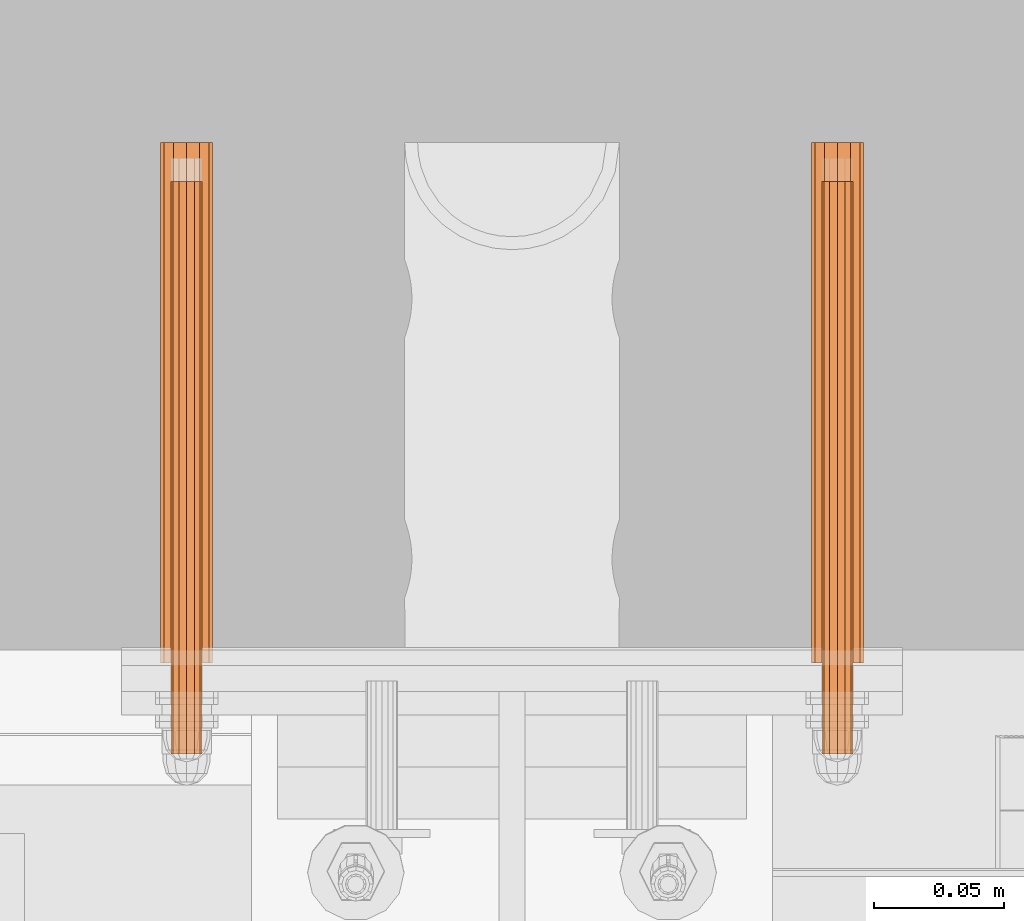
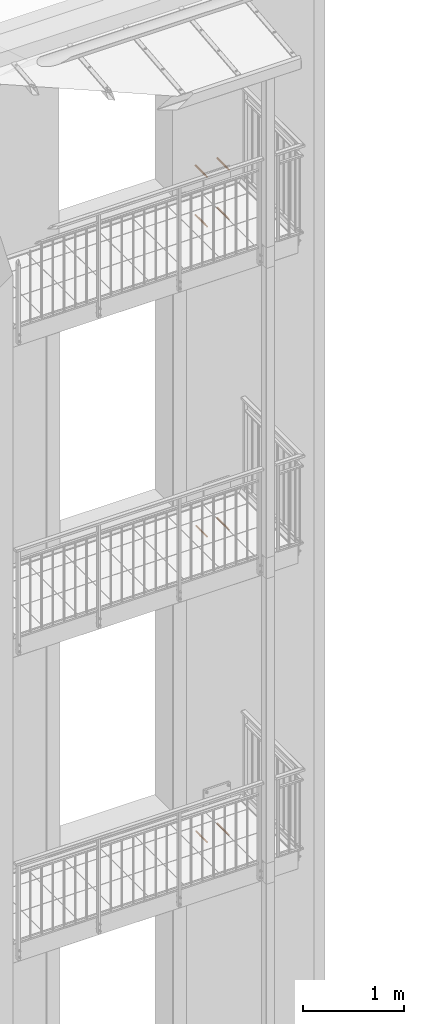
# One storey, part 99 of 162: 14 proxies.
"""IFC2X3 building model written with IfcOpenShell, lengths in millimetres."""

from ifc_helpers import new_model, entity, si_unit, converted_unit, origin_with_axes, place, context, project, spatial, faceted_brep, material, element, save


model = new_model("IFC2X3")

# Units and contexts
model_context = context("Model", 3, precision=1e-09, world=origin_with_axes())
ifc_project = project(units=[si_unit("LENGTHUNIT", "METRE", prefix="MILLI"), si_unit("AREAUNIT", "SQUARE_METRE"), si_unit("VOLUMEUNIT", "CUBIC_METRE"), converted_unit("PLANEANGLEUNIT", "DEGREE", entity("IfcPlaneAngleMeasure", 0.01745329), si_unit("PLANEANGLEUNIT", "RADIAN"), dimensions=[0, 0, 0, 0, 0, 0, 0])], contexts=[model_context])

# Site, building, storey
site_placement = place(None, origin_with_axes())
site = spatial("IfcSite", under=ifc_project, at=site_placement, Name="Hermannstra?e 1a, 60318 Frankfurt", CompositionType="ELEMENT")
building_placement = place(site_placement, origin_with_axes())
building = spatial("IfcBuilding", under=site, at=building_placement, Name="Struktur 1", CompositionType="ELEMENT")
storey_placement = place(building_placement, origin_with_axes())
storey = spatial("IfcBuildingStorey", under=building, at=storey_placement, Name="Default Storey", CompositionType="ELEMENT", Elevation=0.0)

# Proxies
ifc_material_1 = material(Name="A4")
proxy_1_placement = place(None, origin_with_axes())
element("IfcBuildingElementProxy", 1, at=proxy_1_placement, inside=storey, material=ifc_material_1, ObjectType="-", context=model_context, shape_type="Brep", body=[
    faceted_brep([(5448.30936482, 2695.609373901, 11010.999), (5448.30936482, 2915.609373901, 11010.999), (5445.30936482, 2915.609373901, 11010.195152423), (5445.30936482, 2695.609373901, 11010.195152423), (5451.30936482, 2695.609373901, 11010.195152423), (5451.30936482, 2915.609373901, 11010.195152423), (5451.30936482, 2695.609373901, 10999.802847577), (5453.505517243, 2695.609373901, 11001.999), (5454.30936482, 2695.609373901, 11004.999), (5453.505517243, 2695.609373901, 11007.999), (5443.113212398, 2695.609373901, 11007.999), (5442.30936482, 2695.609373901, 11004.999), (5443.113212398, 2695.609373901, 11001.999), (5445.30936482, 2695.609373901, 10999.802847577), (5448.30936482, 2695.609373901, 10998.999), (5445.30936482, 2915.609373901, 10999.802847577), (5443.113212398, 2915.609373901, 11001.999), (5442.30936482, 2915.609373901, 11004.999), (5443.113212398, 2915.609373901, 11007.999), (5453.505517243, 2915.609373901, 11007.999), (5454.30936482, 2915.609373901, 11004.999), (5453.505517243, 2915.609373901, 11001.999), (5451.30936482, 2915.609373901, 10999.802847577), (5448.30936482, 2915.609373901, 10998.999)], [[[0, 1, 2, 3]], [[1, 0, 4, 5]], [[6, 7, 8, 9, 4, 0, 3, 10, 11, 12, 13, 14]], [[15, 16, 17, 18, 2, 1, 5, 19, 20, 21, 22, 23]], [[3, 2, 18, 10]], [[5, 4, 9, 19]], [[17, 11, 10, 18]], [[16, 12, 11, 17]], [[19, 9, 8, 20]], [[13, 15, 23, 14]], [[12, 16, 15, 13]], [[14, 23, 22, 6]], [[20, 8, 7, 21]], [[6, 22, 21, 7]]]),
])
ifc_material_2 = material(Name="Kunststoff")
proxy_2_placement = place(None, origin_with_axes())
element("IfcBuildingElementProxy", 2, at=proxy_2_placement, inside=storey, material=ifc_material_2, ObjectType="-", context=model_context, shape_type="Brep", body=[
    faceted_brep([(5693.30936482, 2930.609373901, 10996.338745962), (5689.649110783, 2930.609373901, 10999.999), (5688.30936482, 2930.609373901, 11004.999), (5689.649110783, 2930.609373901, 11009.999), (5693.30936482, 2930.609373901, 11013.659254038), (5698.30936482, 2930.609373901, 11014.999), (5703.30936482, 2930.609373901, 11013.659254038), (5706.969618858, 2930.609373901, 11009.999), (5708.30936482, 2930.609373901, 11004.999), (5706.969618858, 2930.609373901, 10999.999), (5703.30936482, 2930.609373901, 10996.338745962), (5698.30936482, 2930.609373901, 10994.999), (5698.30936482, 2730.609373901, 11014.999), (5693.30936482, 2730.609373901, 11013.659254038), (5703.30936482, 2730.609373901, 11013.659254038), (5706.969618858, 2730.609373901, 11009.999), (5706.969618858, 2730.609373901, 10999.999), (5703.30936482, 2730.609373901, 10996.338745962), (5708.30936482, 2730.609373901, 11004.999), (5698.30936482, 2730.609373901, 10994.999), (5689.649110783, 2730.609373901, 11009.999), (5688.30936482, 2730.609373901, 11004.999), (5689.649110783, 2730.609373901, 10999.999), (5693.30936482, 2730.609373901, 10996.338745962), (5702.55936482, 2730.609373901, 10997.637784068), (5702.55936482, 2928.609373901, 10997.637784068), (5698.30936482, 2928.609373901, 10996.499), (5698.30936482, 2730.609373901, 10996.499), (5705.670580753, 2730.609373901, 11000.749), (5705.670580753, 2928.609373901, 11000.749), (5698.30936482, 2928.609373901, 11013.499), (5698.30936482, 2730.609373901, 11013.499), (5694.05936482, 2730.609373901, 11012.360215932), (5694.05936482, 2928.609373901, 11012.360215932), (5702.55936482, 2928.609373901, 11012.360215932), (5702.55936482, 2730.609373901, 11012.360215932), (5690.948148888, 2928.609373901, 11009.249), (5689.80936482, 2928.609373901, 11004.999), (5690.948148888, 2928.609373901, 11000.749), (5694.05936482, 2928.609373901, 10997.637784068), (5706.80936482, 2928.609373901, 11004.999), (5705.670580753, 2928.609373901, 11009.249), (5694.05936482, 2730.609373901, 10997.637784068), (5705.670580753, 2730.609373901, 11009.249), (5706.80936482, 2730.609373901, 11004.999), (5690.948148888, 2730.609373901, 11009.249), (5690.948148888, 2730.609373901, 11000.749), (5689.80936482, 2730.609373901, 11004.999)], [[[0, 1, 2, 3, 4, 5, 6, 7, 8, 9, 10, 11]], [[12, 5, 4, 13]], [[14, 6, 5, 12]], [[15, 7, 6, 14]], [[9, 16, 17, 10]], [[18, 8, 7, 15]], [[10, 17, 19, 11]], [[16, 18, 15, 14, 12, 13, 20, 21, 22, 23, 19, 17]], [[8, 18, 16, 9]], [[13, 4, 3, 20]], [[11, 19, 23, 0]], [[24, 25, 26, 27]], [[25, 24, 28, 29]], [[30, 31, 32, 33]], [[31, 30, 34, 35]], [[33, 36, 37, 38, 39, 26, 25, 29, 40, 41, 34, 30]], [[20, 3, 2, 21]], [[0, 23, 22, 1]], [[27, 26, 39, 42]], [[41, 43, 35, 34]], [[40, 44, 43, 41]], [[29, 28, 44, 40]], [[21, 2, 1, 22]], [[33, 32, 45, 36]], [[42, 39, 38, 46]], [[36, 45, 47, 37]], [[46, 38, 37, 47]]]),
])
proxy_3_placement = place(None, origin_with_axes())
element("IfcBuildingElementProxy", 3, at=proxy_3_placement, inside=storey, material=ifc_material_1, ObjectType="-", context=model_context, shape_type="Brep", body=[
    faceted_brep([(5698.30936482, 2695.609373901, 11010.999), (5698.30936482, 2915.609373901, 11010.999), (5695.30936482, 2915.609373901, 11010.195152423), (5695.30936482, 2695.609373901, 11010.195152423), (5701.30936482, 2695.609373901, 11010.195152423), (5701.30936482, 2915.609373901, 11010.195152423), (5701.30936482, 2695.609373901, 10999.802847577), (5703.505517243, 2695.609373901, 11001.999), (5704.30936482, 2695.609373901, 11004.999), (5703.505517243, 2695.609373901, 11007.999), (5693.113212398, 2695.609373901, 11007.999), (5692.30936482, 2695.609373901, 11004.999), (5693.113212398, 2695.609373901, 11001.999), (5695.30936482, 2695.609373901, 10999.802847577), (5698.30936482, 2695.609373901, 10998.999), (5695.30936482, 2915.609373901, 10999.802847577), (5693.113212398, 2915.609373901, 11001.999), (5692.30936482, 2915.609373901, 11004.999), (5693.113212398, 2915.609373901, 11007.999), (5703.505517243, 2915.609373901, 11007.999), (5704.30936482, 2915.609373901, 11004.999), (5703.505517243, 2915.609373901, 11001.999), (5701.30936482, 2915.609373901, 10999.802847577), (5698.30936482, 2915.609373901, 10998.999)], [[[0, 1, 2, 3]], [[1, 0, 4, 5]], [[6, 7, 8, 9, 4, 0, 3, 10, 11, 12, 13, 14]], [[15, 16, 17, 18, 2, 1, 5, 19, 20, 21, 22, 23]], [[3, 2, 18, 10]], [[5, 4, 9, 19]], [[17, 11, 10, 18]], [[16, 12, 11, 17]], [[19, 9, 8, 20]], [[13, 15, 23, 14]], [[12, 16, 15, 13]], [[14, 23, 22, 6]], [[20, 8, 7, 21]], [[6, 22, 21, 7]]]),
])
proxy_4_placement = place(None, origin_with_axes())
element("IfcBuildingElementProxy", 4, at=proxy_4_placement, inside=storey, material=ifc_material_1, ObjectType="-", context=model_context, shape_type="Brep", body=[
    faceted_brep([(5698.310071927, 2695.610081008, 14767.999), (5698.310071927, 2915.610081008, 14767.999), (5695.310071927, 2915.610081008, 14767.195152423), (5695.310071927, 2695.610081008, 14767.195152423), (5701.310071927, 2695.610081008, 14767.195152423), (5701.310071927, 2915.610081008, 14767.195152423), (5701.310071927, 2695.610081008, 14756.802847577), (5703.50622435, 2695.610081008, 14758.999), (5704.310071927, 2695.610081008, 14761.999), (5703.50622435, 2695.610081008, 14764.999), (5693.113919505, 2695.610081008, 14764.999), (5692.310071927, 2695.610081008, 14761.999), (5693.113919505, 2695.610081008, 14758.999), (5695.310071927, 2695.610081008, 14756.802847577), (5698.310071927, 2695.610081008, 14755.999), (5695.310071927, 2915.610081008, 14756.802847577), (5693.113919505, 2915.610081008, 14758.999), (5692.310071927, 2915.610081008, 14761.999), (5693.113919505, 2915.610081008, 14764.999), (5703.50622435, 2915.610081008, 14764.999), (5704.310071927, 2915.610081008, 14761.999), (5703.50622435, 2915.610081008, 14758.999), (5701.310071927, 2915.610081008, 14756.802847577), (5698.310071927, 2915.610081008, 14755.999)], [[[0, 1, 2, 3]], [[1, 0, 4, 5]], [[6, 7, 8, 9, 4, 0, 3, 10, 11, 12, 13, 14]], [[15, 16, 17, 18, 2, 1, 5, 19, 20, 21, 22, 23]], [[3, 2, 18, 10]], [[5, 4, 9, 19]], [[17, 11, 10, 18]], [[16, 12, 11, 17]], [[19, 9, 8, 20]], [[13, 15, 23, 14]], [[12, 16, 15, 13]], [[14, 23, 22, 6]], [[20, 8, 7, 21]], [[6, 22, 21, 7]]]),
])
proxy_5_placement = place(None, origin_with_axes())
element("IfcBuildingElementProxy", 5, at=proxy_5_placement, inside=storey, material=ifc_material_2, ObjectType="-", context=model_context, shape_type="Brep", body=[
    faceted_brep([(5693.310071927, 2930.610081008, 14753.338745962), (5689.649817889, 2930.610081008, 14756.999), (5688.310071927, 2930.610081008, 14761.999), (5689.649817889, 2930.610081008, 14766.999), (5693.310071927, 2930.610081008, 14770.659254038), (5698.310071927, 2930.610081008, 14771.999), (5703.310071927, 2930.610081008, 14770.659254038), (5706.970325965, 2930.610081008, 14766.999), (5708.310071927, 2930.610081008, 14761.999), (5706.970325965, 2930.610081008, 14756.999), (5703.310071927, 2930.610081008, 14753.338745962), (5698.310071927, 2930.610081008, 14751.999), (5698.310071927, 2730.610081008, 14771.999), (5693.310071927, 2730.610081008, 14770.659254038), (5703.310071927, 2730.610081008, 14770.659254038), (5706.970325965, 2730.610081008, 14766.999), (5706.970325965, 2730.610081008, 14756.999), (5703.310071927, 2730.610081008, 14753.338745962), (5708.310071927, 2730.610081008, 14761.999), (5698.310071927, 2730.610081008, 14751.999), (5689.649817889, 2730.610081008, 14766.999), (5688.310071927, 2730.610081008, 14761.999), (5689.649817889, 2730.610081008, 14756.999), (5693.310071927, 2730.610081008, 14753.338745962), (5702.560071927, 2730.610081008, 14754.637784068), (5702.560071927, 2928.610081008, 14754.637784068), (5698.310071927, 2928.610081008, 14753.499), (5698.310071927, 2730.610081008, 14753.499), (5705.671287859, 2730.610081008, 14757.749), (5705.671287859, 2928.610081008, 14757.749), (5698.310071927, 2928.610081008, 14770.499), (5698.310071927, 2730.610081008, 14770.499), (5694.060071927, 2730.610081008, 14769.360215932), (5694.060071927, 2928.610081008, 14769.360215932), (5702.560071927, 2928.610081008, 14769.360215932), (5702.560071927, 2730.610081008, 14769.360215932), (5690.948855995, 2928.610081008, 14766.249), (5689.810071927, 2928.610081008, 14761.999), (5690.948855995, 2928.610081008, 14757.749), (5694.060071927, 2928.610081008, 14754.637784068), (5706.810071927, 2928.610081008, 14761.999), (5705.671287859, 2928.610081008, 14766.249), (5694.060071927, 2730.610081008, 14754.637784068), (5705.671287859, 2730.610081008, 14766.249), (5706.810071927, 2730.610081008, 14761.999), (5690.948855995, 2730.610081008, 14766.249), (5690.948855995, 2730.610081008, 14757.749), (5689.810071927, 2730.610081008, 14761.999)], [[[0, 1, 2, 3, 4, 5, 6, 7, 8, 9, 10, 11]], [[12, 5, 4, 13]], [[14, 6, 5, 12]], [[15, 7, 6, 14]], [[9, 16, 17, 10]], [[18, 8, 7, 15]], [[10, 17, 19, 11]], [[16, 18, 15, 14, 12, 13, 20, 21, 22, 23, 19, 17]], [[8, 18, 16, 9]], [[13, 4, 3, 20]], [[11, 19, 23, 0]], [[24, 25, 26, 27]], [[25, 24, 28, 29]], [[30, 31, 32, 33]], [[31, 30, 34, 35]], [[33, 36, 37, 38, 39, 26, 25, 29, 40, 41, 34, 30]], [[20, 3, 2, 21]], [[0, 23, 22, 1]], [[27, 26, 39, 42]], [[41, 43, 35, 34]], [[40, 44, 43, 41]], [[29, 28, 44, 40]], [[21, 2, 1, 22]], [[33, 32, 45, 36]], [[42, 39, 38, 46]], [[36, 45, 47, 37]], [[46, 38, 37, 47]]]),
])
proxy_6_placement = place(None, origin_with_axes())
element("IfcBuildingElementProxy", 6, at=proxy_6_placement, inside=storey, material=ifc_material_1, ObjectType="-", context=model_context, shape_type="Brep", body=[
    faceted_brep([(5448.310071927, 2695.610081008, 14767.999), (5448.310071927, 2915.610081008, 14767.999), (5445.310071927, 2915.610081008, 14767.195152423), (5445.310071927, 2695.610081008, 14767.195152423), (5451.310071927, 2695.610081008, 14767.195152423), (5451.310071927, 2915.610081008, 14767.195152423), (5451.310071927, 2695.610081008, 14756.802847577), (5453.50622435, 2695.610081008, 14758.999), (5454.310071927, 2695.610081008, 14761.999), (5453.50622435, 2695.610081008, 14764.999), (5443.113919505, 2695.610081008, 14764.999), (5442.310071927, 2695.610081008, 14761.999), (5443.113919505, 2695.610081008, 14758.999), (5445.310071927, 2695.610081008, 14756.802847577), (5448.310071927, 2695.610081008, 14755.999), (5445.310071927, 2915.610081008, 14756.802847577), (5443.113919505, 2915.610081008, 14758.999), (5442.310071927, 2915.610081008, 14761.999), (5443.113919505, 2915.610081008, 14764.999), (5453.50622435, 2915.610081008, 14764.999), (5454.310071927, 2915.610081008, 14761.999), (5453.50622435, 2915.610081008, 14758.999), (5451.310071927, 2915.610081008, 14756.802847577), (5448.310071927, 2915.610081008, 14755.999)], [[[0, 1, 2, 3]], [[1, 0, 4, 5]], [[6, 7, 8, 9, 4, 0, 3, 10, 11, 12, 13, 14]], [[15, 16, 17, 18, 2, 1, 5, 19, 20, 21, 22, 23]], [[3, 2, 18, 10]], [[5, 4, 9, 19]], [[17, 11, 10, 18]], [[16, 12, 11, 17]], [[19, 9, 8, 20]], [[13, 15, 23, 14]], [[12, 16, 15, 13]], [[14, 23, 22, 6]], [[20, 8, 7, 21]], [[6, 22, 21, 7]]]),
])
proxy_7_placement = place(None, origin_with_axes())
element("IfcBuildingElementProxy", 7, at=proxy_7_placement, inside=storey, material=ifc_material_2, ObjectType="-", context=model_context, shape_type="Brep", body=[
    faceted_brep([(5443.310071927, 2930.610081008, 14753.338745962), (5439.649817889, 2930.610081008, 14756.999), (5438.310071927, 2930.610081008, 14761.999), (5439.649817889, 2930.610081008, 14766.999), (5443.310071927, 2930.610081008, 14770.659254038), (5448.310071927, 2930.610081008, 14771.999), (5453.310071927, 2930.610081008, 14770.659254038), (5456.970325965, 2930.610081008, 14766.999), (5458.310071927, 2930.610081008, 14761.999), (5456.970325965, 2930.610081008, 14756.999), (5453.310071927, 2930.610081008, 14753.338745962), (5448.310071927, 2930.610081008, 14751.999), (5448.310071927, 2730.610081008, 14771.999), (5443.310071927, 2730.610081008, 14770.659254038), (5453.310071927, 2730.610081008, 14770.659254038), (5456.970325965, 2730.610081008, 14766.999), (5456.970325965, 2730.610081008, 14756.999), (5453.310071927, 2730.610081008, 14753.338745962), (5458.310071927, 2730.610081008, 14761.999), (5448.310071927, 2730.610081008, 14751.999), (5439.649817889, 2730.610081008, 14766.999), (5438.310071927, 2730.610081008, 14761.999), (5439.649817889, 2730.610081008, 14756.999), (5443.310071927, 2730.610081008, 14753.338745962), (5452.560071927, 2730.610081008, 14754.637784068), (5452.560071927, 2928.610081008, 14754.637784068), (5448.310071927, 2928.610081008, 14753.499), (5448.310071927, 2730.610081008, 14753.499), (5455.671287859, 2730.610081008, 14757.749), (5455.671287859, 2928.610081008, 14757.749), (5448.310071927, 2928.610081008, 14770.499), (5448.310071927, 2730.610081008, 14770.499), (5444.060071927, 2730.610081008, 14769.360215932), (5444.060071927, 2928.610081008, 14769.360215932), (5452.560071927, 2928.610081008, 14769.360215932), (5452.560071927, 2730.610081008, 14769.360215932), (5440.948855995, 2928.610081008, 14766.249), (5439.810071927, 2928.610081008, 14761.999), (5440.948855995, 2928.610081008, 14757.749), (5444.060071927, 2928.610081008, 14754.637784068), (5456.810071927, 2928.610081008, 14761.999), (5455.671287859, 2928.610081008, 14766.249), (5444.060071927, 2730.610081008, 14754.637784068), (5455.671287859, 2730.610081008, 14766.249), (5456.810071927, 2730.610081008, 14761.999), (5440.948855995, 2730.610081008, 14766.249), (5440.948855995, 2730.610081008, 14757.749), (5439.810071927, 2730.610081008, 14761.999)], [[[0, 1, 2, 3, 4, 5, 6, 7, 8, 9, 10, 11]], [[12, 5, 4, 13]], [[14, 6, 5, 12]], [[15, 7, 6, 14]], [[9, 16, 17, 10]], [[18, 8, 7, 15]], [[10, 17, 19, 11]], [[16, 18, 15, 14, 12, 13, 20, 21, 22, 23, 19, 17]], [[8, 18, 16, 9]], [[13, 4, 3, 20]], [[11, 19, 23, 0]], [[24, 25, 26, 27]], [[25, 24, 28, 29]], [[30, 31, 32, 33]], [[31, 30, 34, 35]], [[33, 36, 37, 38, 39, 26, 25, 29, 40, 41, 34, 30]], [[20, 3, 2, 21]], [[0, 23, 22, 1]], [[27, 26, 39, 42]], [[41, 43, 35, 34]], [[40, 44, 43, 41]], [[29, 28, 44, 40]], [[21, 2, 1, 22]], [[33, 32, 45, 36]], [[42, 39, 38, 46]], [[36, 45, 47, 37]], [[46, 38, 37, 47]]]),
])
proxy_8_placement = place(None, origin_with_axes())
element("IfcBuildingElementProxy", 8, at=proxy_8_placement, inside=storey, material=ifc_material_2, ObjectType="-", context=model_context, shape_type="Brep", body=[
    faceted_brep([(5689.649817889, 2930.610081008, 15366.999), (5693.310071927, 2930.610081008, 15370.659254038), (5698.310071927, 2930.610081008, 15371.999), (5703.310071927, 2930.610081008, 15370.659254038), (5706.970325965, 2930.610081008, 15366.999), (5708.310071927, 2930.610081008, 15361.999), (5706.970325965, 2930.610081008, 15356.999), (5703.310071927, 2930.610081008, 15353.338745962), (5698.310071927, 2930.610081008, 15351.999), (5693.310071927, 2930.610081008, 15353.338745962), (5689.649817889, 2930.610081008, 15356.999), (5688.310071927, 2930.610081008, 15361.999), (5698.310071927, 2730.610081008, 15351.999), (5693.310071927, 2730.610081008, 15353.338745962), (5703.310071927, 2730.610081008, 15353.338745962), (5706.970325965, 2730.610081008, 15356.999), (5706.970325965, 2730.610081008, 15366.999), (5703.310071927, 2730.610081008, 15370.659254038), (5708.310071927, 2730.610081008, 15361.999), (5698.310071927, 2730.610081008, 15371.999), (5693.310071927, 2730.610081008, 15370.659254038), (5689.649817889, 2730.610081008, 15366.999), (5688.310071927, 2730.610081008, 15361.999), (5689.649817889, 2730.610081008, 15356.999), (5702.560071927, 2730.610081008, 15369.360215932), (5705.671287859, 2730.610081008, 15366.249), (5706.810071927, 2730.610081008, 15361.999), (5705.671287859, 2730.610081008, 15357.749), (5702.560071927, 2730.610081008, 15354.637784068), (5698.310071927, 2730.610081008, 15353.499), (5694.060071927, 2730.610081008, 15354.637784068), (5690.948855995, 2730.610081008, 15357.749), (5689.810071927, 2730.610081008, 15361.999), (5690.948855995, 2730.610081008, 15366.249), (5694.060071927, 2730.610081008, 15369.360215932), (5698.310071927, 2730.610081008, 15370.499), (5702.560071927, 2928.610081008, 15369.360215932), (5698.310071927, 2928.610081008, 15370.499), (5705.671287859, 2928.610081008, 15366.249), (5698.310071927, 2928.610081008, 15353.499), (5694.060071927, 2928.610081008, 15354.637784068), (5702.560071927, 2928.610081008, 15354.637784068), (5690.948855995, 2928.610081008, 15357.749), (5705.671287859, 2928.610081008, 15357.749), (5706.810071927, 2928.610081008, 15361.999), (5694.060071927, 2928.610081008, 15369.360215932), (5690.948855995, 2928.610081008, 15366.249), (5689.810071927, 2928.610081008, 15361.999)], [[[0, 1, 2, 3, 4, 5, 6, 7, 8, 9, 10, 11]], [[8, 12, 13, 9]], [[7, 14, 12, 8]], [[6, 15, 14, 7]], [[16, 4, 3, 17]], [[5, 18, 15, 6]], [[17, 3, 2, 19]], [[18, 16, 17, 19, 20, 21, 22, 23, 13, 12, 14, 15], [24, 25, 26, 27, 28, 29, 30, 31, 32, 33, 34, 35]], [[18, 5, 4, 16]], [[9, 13, 23, 10]], [[19, 2, 1, 20]], [[36, 24, 35, 37]], [[24, 36, 38, 25]], [[29, 39, 40, 30]], [[39, 29, 28, 41]], [[42, 40, 39, 41, 43, 44, 38, 36, 37, 45, 46, 47]], [[10, 23, 22, 11]], [[20, 1, 0, 21]], [[37, 35, 34, 45]], [[27, 43, 41, 28]], [[26, 44, 43, 27]], [[25, 38, 44, 26]], [[11, 22, 21, 0]], [[30, 40, 42, 31]], [[45, 34, 33, 46]], [[31, 42, 47, 32]], [[46, 33, 32, 47]]]),
])
proxy_9_placement = place(None, origin_with_axes())
element("IfcBuildingElementProxy", 9, at=proxy_9_placement, inside=storey, material=ifc_material_1, ObjectType="-", context=model_context, shape_type="Brep", body=[
    faceted_brep([(5698.310071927, 2915.610081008, 15355.999), (5698.310071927, 2695.610081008, 15355.999), (5695.310071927, 2695.610081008, 15356.802847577), (5695.310071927, 2915.610081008, 15356.802847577), (5701.310071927, 2915.610081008, 15356.802847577), (5701.310071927, 2695.610081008, 15356.802847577), (5703.50622435, 2695.610081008, 15364.999), (5701.310071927, 2695.610081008, 15367.195152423), (5698.310071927, 2695.610081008, 15367.999), (5695.310071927, 2695.610081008, 15367.195152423), (5693.113919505, 2695.610081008, 15364.999), (5692.310071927, 2695.610081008, 15361.999), (5693.113919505, 2695.610081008, 15358.999), (5703.50622435, 2695.610081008, 15358.999), (5704.310071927, 2695.610081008, 15361.999), (5693.113919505, 2915.610081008, 15364.999), (5695.310071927, 2915.610081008, 15367.195152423), (5698.310071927, 2915.610081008, 15367.999), (5701.310071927, 2915.610081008, 15367.195152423), (5703.50622435, 2915.610081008, 15364.999), (5704.310071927, 2915.610081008, 15361.999), (5703.50622435, 2915.610081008, 15358.999), (5693.113919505, 2915.610081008, 15358.999), (5692.310071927, 2915.610081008, 15361.999)], [[[0, 1, 2, 3]], [[1, 0, 4, 5]], [[6, 7, 8, 9, 10, 11, 12, 2, 1, 5, 13, 14]], [[15, 16, 17, 18, 19, 20, 21, 4, 0, 3, 22, 23]], [[3, 2, 12, 22]], [[5, 4, 21, 13]], [[11, 23, 22, 12]], [[10, 15, 23, 11]], [[13, 21, 20, 14]], [[16, 9, 8, 17]], [[15, 10, 9, 16]], [[17, 8, 7, 18]], [[14, 20, 19, 6]], [[18, 7, 6, 19]]]),
])
proxy_10_placement = place(None, origin_with_axes())
element("IfcBuildingElementProxy", 10, at=proxy_10_placement, inside=storey, material=ifc_material_2, ObjectType="-", context=model_context, shape_type="Brep", body=[
    faceted_brep([(5439.649817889, 2930.610081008, 15366.999), (5443.310071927, 2930.610081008, 15370.659254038), (5448.310071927, 2930.610081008, 15371.999), (5453.310071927, 2930.610081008, 15370.659254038), (5456.970325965, 2930.610081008, 15366.999), (5458.310071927, 2930.610081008, 15361.999), (5456.970325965, 2930.610081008, 15356.999), (5453.310071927, 2930.610081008, 15353.338745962), (5448.310071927, 2930.610081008, 15351.999), (5443.310071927, 2930.610081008, 15353.338745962), (5439.649817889, 2930.610081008, 15356.999), (5438.310071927, 2930.610081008, 15361.999), (5448.310071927, 2730.610081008, 15351.999), (5443.310071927, 2730.610081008, 15353.338745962), (5453.310071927, 2730.610081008, 15353.338745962), (5456.970325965, 2730.610081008, 15356.999), (5456.970325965, 2730.610081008, 15366.999), (5453.310071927, 2730.610081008, 15370.659254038), (5458.310071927, 2730.610081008, 15361.999), (5448.310071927, 2730.610081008, 15371.999), (5443.310071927, 2730.610081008, 15370.659254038), (5439.649817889, 2730.610081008, 15366.999), (5438.310071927, 2730.610081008, 15361.999), (5439.649817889, 2730.610081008, 15356.999), (5452.560071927, 2730.610081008, 15369.360215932), (5455.671287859, 2730.610081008, 15366.249), (5456.810071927, 2730.610081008, 15361.999), (5455.671287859, 2730.610081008, 15357.749), (5452.560071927, 2730.610081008, 15354.637784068), (5448.310071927, 2730.610081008, 15353.499), (5444.060071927, 2730.610081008, 15354.637784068), (5440.948855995, 2730.610081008, 15357.749), (5439.810071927, 2730.610081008, 15361.999), (5440.948855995, 2730.610081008, 15366.249), (5444.060071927, 2730.610081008, 15369.360215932), (5448.310071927, 2730.610081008, 15370.499), (5452.560071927, 2928.610081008, 15369.360215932), (5448.310071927, 2928.610081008, 15370.499), (5455.671287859, 2928.610081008, 15366.249), (5448.310071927, 2928.610081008, 15353.499), (5444.060071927, 2928.610081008, 15354.637784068), (5452.560071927, 2928.610081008, 15354.637784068), (5440.948855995, 2928.610081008, 15357.749), (5455.671287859, 2928.610081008, 15357.749), (5456.810071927, 2928.610081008, 15361.999), (5444.060071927, 2928.610081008, 15369.360215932), (5440.948855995, 2928.610081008, 15366.249), (5439.810071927, 2928.610081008, 15361.999)], [[[0, 1, 2, 3, 4, 5, 6, 7, 8, 9, 10, 11]], [[8, 12, 13, 9]], [[7, 14, 12, 8]], [[6, 15, 14, 7]], [[16, 4, 3, 17]], [[5, 18, 15, 6]], [[17, 3, 2, 19]], [[18, 16, 17, 19, 20, 21, 22, 23, 13, 12, 14, 15], [24, 25, 26, 27, 28, 29, 30, 31, 32, 33, 34, 35]], [[18, 5, 4, 16]], [[9, 13, 23, 10]], [[19, 2, 1, 20]], [[36, 24, 35, 37]], [[24, 36, 38, 25]], [[29, 39, 40, 30]], [[39, 29, 28, 41]], [[42, 40, 39, 41, 43, 44, 38, 36, 37, 45, 46, 47]], [[10, 23, 22, 11]], [[20, 1, 0, 21]], [[37, 35, 34, 45]], [[27, 43, 41, 28]], [[26, 44, 43, 27]], [[25, 38, 44, 26]], [[11, 22, 21, 0]], [[30, 40, 42, 31]], [[45, 34, 33, 46]], [[31, 42, 47, 32]], [[46, 33, 32, 47]]]),
])
proxy_11_placement = place(None, origin_with_axes())
element("IfcBuildingElementProxy", 11, at=proxy_11_placement, inside=storey, material=ifc_material_1, ObjectType="-", context=model_context, shape_type="Brep", body=[
    faceted_brep([(5448.310071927, 2915.610081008, 15355.999), (5448.310071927, 2695.610081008, 15355.999), (5445.310071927, 2695.610081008, 15356.802847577), (5445.310071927, 2915.610081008, 15356.802847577), (5451.310071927, 2915.610081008, 15356.802847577), (5451.310071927, 2695.610081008, 15356.802847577), (5453.50622435, 2695.610081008, 15364.999), (5451.310071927, 2695.610081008, 15367.195152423), (5448.310071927, 2695.610081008, 15367.999), (5445.310071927, 2695.610081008, 15367.195152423), (5443.113919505, 2695.610081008, 15364.999), (5442.310071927, 2695.610081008, 15361.999), (5443.113919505, 2695.610081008, 15358.999), (5453.50622435, 2695.610081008, 15358.999), (5454.310071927, 2695.610081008, 15361.999), (5443.113919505, 2915.610081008, 15364.999), (5445.310071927, 2915.610081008, 15367.195152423), (5448.310071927, 2915.610081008, 15367.999), (5451.310071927, 2915.610081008, 15367.195152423), (5453.50622435, 2915.610081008, 15364.999), (5454.310071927, 2915.610081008, 15361.999), (5453.50622435, 2915.610081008, 15358.999), (5443.113919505, 2915.610081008, 15358.999), (5442.310071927, 2915.610081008, 15361.999)], [[[0, 1, 2, 3]], [[1, 0, 4, 5]], [[6, 7, 8, 9, 10, 11, 12, 2, 1, 5, 13, 14]], [[15, 16, 17, 18, 19, 20, 21, 4, 0, 3, 22, 23]], [[3, 2, 12, 22]], [[5, 4, 21, 13]], [[11, 23, 22, 12]], [[10, 15, 23, 11]], [[13, 21, 20, 14]], [[16, 9, 8, 17]], [[15, 10, 9, 16]], [[17, 8, 7, 18]], [[14, 20, 19, 6]], [[18, 7, 6, 19]]]),
])
proxy_12_placement = place(None, origin_with_axes())
element("IfcBuildingElementProxy", 12, at=proxy_12_placement, inside=storey, material=ifc_material_1, ObjectType="-", context=model_context, shape_type="Brep", body=[
    faceted_brep([(5698.308657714, 2695.608666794, 7311.0), (5698.308657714, 2915.608666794, 7311.0), (5695.308657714, 2915.608666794, 7310.196152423), (5695.308657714, 2695.608666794, 7310.196152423), (5701.308657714, 2695.608666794, 7310.196152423), (5701.308657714, 2915.608666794, 7310.196152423), (5701.308657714, 2695.608666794, 7299.803847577), (5703.504810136, 2695.608666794, 7302.0), (5704.308657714, 2695.608666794, 7305.0), (5703.504810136, 2695.608666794, 7308.0), (5693.112505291, 2695.608666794, 7308.0), (5692.308657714, 2695.608666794, 7305.0), (5693.112505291, 2695.608666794, 7302.0), (5695.308657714, 2695.608666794, 7299.803847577), (5698.308657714, 2695.608666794, 7299.0), (5695.308657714, 2915.608666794, 7299.803847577), (5693.112505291, 2915.608666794, 7302.0), (5692.308657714, 2915.608666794, 7305.0), (5693.112505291, 2915.608666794, 7308.0), (5703.504810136, 2915.608666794, 7308.0), (5704.308657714, 2915.608666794, 7305.0), (5703.504810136, 2915.608666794, 7302.0), (5701.308657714, 2915.608666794, 7299.803847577), (5698.308657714, 2915.608666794, 7299.0)], [[[0, 1, 2, 3]], [[1, 0, 4, 5]], [[6, 7, 8, 9, 4, 0, 3, 10, 11, 12, 13, 14]], [[15, 16, 17, 18, 2, 1, 5, 19, 20, 21, 22, 23]], [[3, 2, 18, 10]], [[5, 4, 9, 19]], [[17, 11, 10, 18]], [[16, 12, 11, 17]], [[19, 9, 8, 20]], [[13, 15, 23, 14]], [[12, 16, 15, 13]], [[14, 23, 22, 6]], [[20, 8, 7, 21]], [[6, 22, 21, 7]]]),
])
proxy_13_placement = place(None, origin_with_axes())
element("IfcBuildingElementProxy", 13, at=proxy_13_placement, inside=storey, material=ifc_material_2, ObjectType="-", context=model_context, shape_type="Brep", body=[
    faceted_brep([(5693.308657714, 2930.608666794, 7296.339745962), (5689.648403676, 2930.608666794, 7300.0), (5688.308657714, 2930.608666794, 7305.0), (5689.648403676, 2930.608666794, 7310.0), (5693.308657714, 2930.608666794, 7313.660254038), (5698.308657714, 2930.608666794, 7315.0), (5703.308657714, 2930.608666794, 7313.660254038), (5706.968911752, 2930.608666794, 7310.0), (5708.308657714, 2930.608666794, 7305.0), (5706.968911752, 2930.608666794, 7300.0), (5703.308657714, 2930.608666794, 7296.339745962), (5698.308657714, 2930.608666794, 7295.0), (5698.308657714, 2730.608666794, 7315.0), (5693.308657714, 2730.608666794, 7313.660254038), (5703.308657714, 2730.608666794, 7313.660254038), (5706.968911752, 2730.608666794, 7310.0), (5706.968911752, 2730.608666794, 7300.0), (5703.308657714, 2730.608666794, 7296.339745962), (5708.308657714, 2730.608666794, 7305.0), (5698.308657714, 2730.608666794, 7295.0), (5689.648403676, 2730.608666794, 7310.0), (5688.308657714, 2730.608666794, 7305.0), (5689.648403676, 2730.608666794, 7300.0), (5693.308657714, 2730.608666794, 7296.339745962), (5702.558657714, 2730.608666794, 7297.638784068), (5702.558657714, 2928.608666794, 7297.638784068), (5698.308657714, 2928.608666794, 7296.5), (5698.308657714, 2730.608666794, 7296.5), (5705.669873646, 2730.608666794, 7300.75), (5705.669873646, 2928.608666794, 7300.75), (5698.308657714, 2928.608666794, 7313.5), (5698.308657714, 2730.608666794, 7313.5), (5694.058657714, 2730.608666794, 7312.361215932), (5694.058657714, 2928.608666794, 7312.361215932), (5702.558657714, 2928.608666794, 7312.361215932), (5702.558657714, 2730.608666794, 7312.361215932), (5690.947441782, 2928.608666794, 7309.25), (5689.808657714, 2928.608666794, 7305.0), (5690.947441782, 2928.608666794, 7300.75), (5694.058657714, 2928.608666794, 7297.638784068), (5706.808657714, 2928.608666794, 7305.0), (5705.669873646, 2928.608666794, 7309.25), (5694.058657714, 2730.608666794, 7297.638784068), (5705.669873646, 2730.608666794, 7309.25), (5706.808657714, 2730.608666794, 7305.0), (5690.947441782, 2730.608666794, 7309.25), (5690.947441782, 2730.608666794, 7300.75), (5689.808657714, 2730.608666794, 7305.0)], [[[0, 1, 2, 3, 4, 5, 6, 7, 8, 9, 10, 11]], [[12, 5, 4, 13]], [[14, 6, 5, 12]], [[15, 7, 6, 14]], [[9, 16, 17, 10]], [[18, 8, 7, 15]], [[10, 17, 19, 11]], [[16, 18, 15, 14, 12, 13, 20, 21, 22, 23, 19, 17]], [[8, 18, 16, 9]], [[13, 4, 3, 20]], [[11, 19, 23, 0]], [[24, 25, 26, 27]], [[25, 24, 28, 29]], [[30, 31, 32, 33]], [[31, 30, 34, 35]], [[33, 36, 37, 38, 39, 26, 25, 29, 40, 41, 34, 30]], [[20, 3, 2, 21]], [[0, 23, 22, 1]], [[27, 26, 39, 42]], [[41, 43, 35, 34]], [[40, 44, 43, 41]], [[29, 28, 44, 40]], [[21, 2, 1, 22]], [[33, 32, 45, 36]], [[42, 39, 38, 46]], [[36, 45, 47, 37]], [[46, 38, 37, 47]]]),
])
proxy_14_placement = place(None, origin_with_axes())
element("IfcBuildingElementProxy", 14, at=proxy_14_placement, inside=storey, material=ifc_material_1, ObjectType="-", context=model_context, shape_type="Brep", body=[
    faceted_brep([(5448.308657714, 2695.608666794, 7311.0), (5448.308657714, 2915.608666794, 7311.0), (5445.308657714, 2915.608666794, 7310.196152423), (5445.308657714, 2695.608666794, 7310.196152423), (5451.308657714, 2695.608666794, 7310.196152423), (5451.308657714, 2915.608666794, 7310.196152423), (5451.308657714, 2695.608666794, 7299.803847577), (5453.504810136, 2695.608666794, 7302.0), (5454.308657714, 2695.608666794, 7305.0), (5453.504810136, 2695.608666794, 7308.0), (5443.112505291, 2695.608666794, 7308.0), (5442.308657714, 2695.608666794, 7305.0), (5443.112505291, 2695.608666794, 7302.0), (5445.308657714, 2695.608666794, 7299.803847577), (5448.308657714, 2695.608666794, 7299.0), (5445.308657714, 2915.608666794, 7299.803847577), (5443.112505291, 2915.608666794, 7302.0), (5442.308657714, 2915.608666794, 7305.0), (5443.112505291, 2915.608666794, 7308.0), (5453.504810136, 2915.608666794, 7308.0), (5454.308657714, 2915.608666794, 7305.0), (5453.504810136, 2915.608666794, 7302.0), (5451.308657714, 2915.608666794, 7299.803847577), (5448.308657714, 2915.608666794, 7299.0)], [[[0, 1, 2, 3]], [[1, 0, 4, 5]], [[6, 7, 8, 9, 4, 0, 3, 10, 11, 12, 13, 14]], [[15, 16, 17, 18, 2, 1, 5, 19, 20, 21, 22, 23]], [[3, 2, 18, 10]], [[5, 4, 9, 19]], [[17, 11, 10, 18]], [[16, 12, 11, 17]], [[19, 9, 8, 20]], [[13, 15, 23, 14]], [[12, 16, 15, 13]], [[14, 23, 22, 6]], [[20, 8, 7, 21]], [[6, 22, 21, 7]]]),
])

save(model, "model.ifc")
